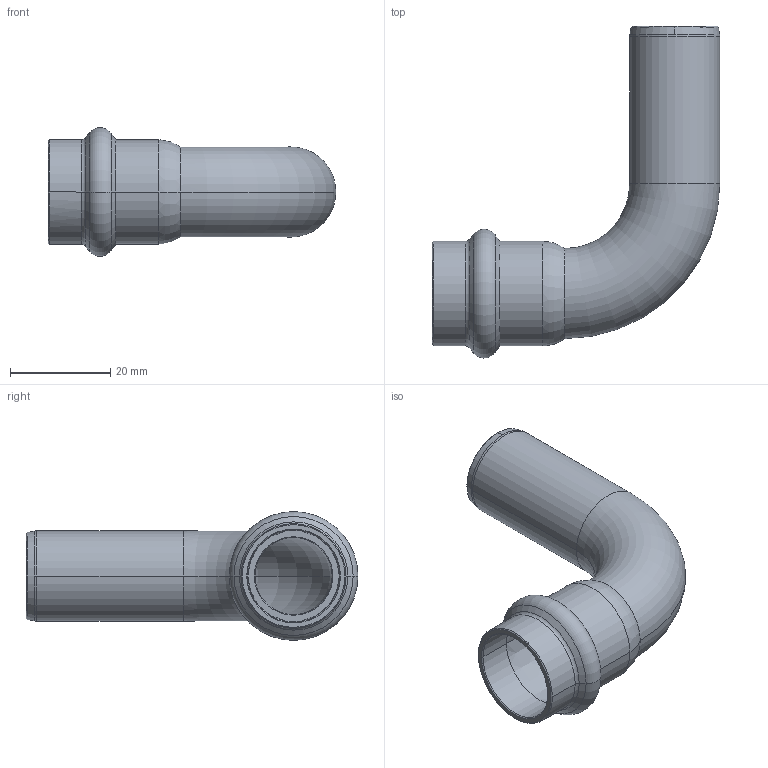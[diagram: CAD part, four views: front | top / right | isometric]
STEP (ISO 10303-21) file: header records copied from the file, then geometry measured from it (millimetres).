
FILE_DESCRIPTION(('CoCreate Modeling STEP Export'),'2;1');
FILE_NAME('8001VW18.stp','2013-01-29T13:55:57',(''),(''),'CoCreate Modeling STEP processor for AP214 (Solid Model)','CoCreate Modeling 17.00A 17-Jun-2010 (C) Parametric Technology GmbH','');
FILE_SCHEMA(('AUTOMOTIVE_DESIGN { 1 0 10303 214 1 1 1 1 }'));
Length unit declared in the file: millimetre
Products named in the file (1): 8001VW18
Bounding box: 57.43 x 66.25 x 25.7 mm (x, y, z)
Volume: 7432 mm3; surface area: 10639.9 mm2
Topology: 1 solids, 1 shells, 52 faces, 121 edges, 73 vertices
Faces by surface type: torus 18, cone 16, cylinder 14, plane 4
Entity records: 1615 total; most frequent: CARTESIAN_POINT 592, ORIENTED_EDGE 242, DIRECTION 182, EDGE_CURVE 121, AXIS2_PLACEMENT_3D 76, VERTEX_POINT 73, EDGE_LOOP 56, FACE_OUTER_BOUND 52
